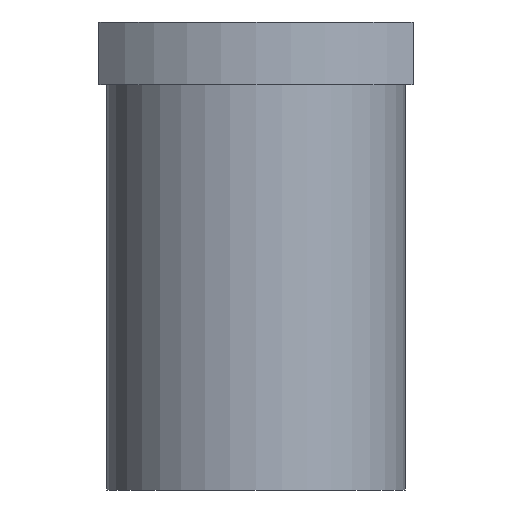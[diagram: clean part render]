
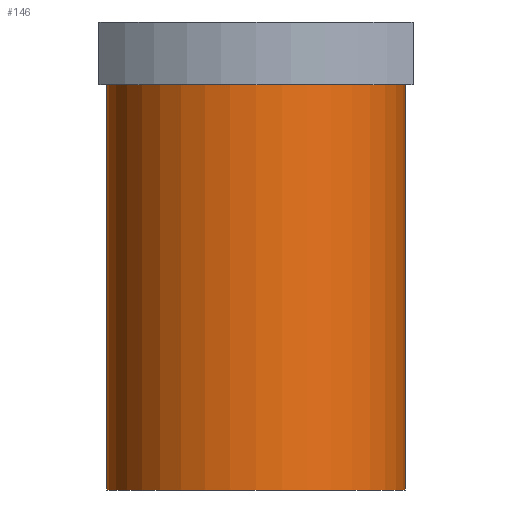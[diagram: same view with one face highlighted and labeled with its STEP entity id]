
A CAD part, front view. The second image highlights one B-rep face of the part: STEP entity #146.
In plain terms, the highlighted cylindrical face has radius 47.5 mm (diameter 95 mm), a partial arc.
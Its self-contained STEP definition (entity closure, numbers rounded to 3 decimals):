
#146=ADVANCED_FACE('',(#308),#309,.T.);
#308=FACE_OUTER_BOUND('',#463,.T.);
#309=CYLINDRICAL_SURFACE('',#464,47.5);
#463=EDGE_LOOP('',(#831,#832,#833,#834));
#464=AXIS2_PLACEMENT_3D('',#835,#836,#837);
#831=ORIENTED_EDGE('',*,*,#847,.T.);
#832=ORIENTED_EDGE('',*,*,#990,.F.);
#833=ORIENTED_EDGE('',*,*,#849,.T.);
#834=ORIENTED_EDGE('',*,*,#987,.T.);
#835=CARTESIAN_POINT('',(0.,0.0,-74.5));
#836=DIRECTION('',(0.,0.0,-1.0));
#837=DIRECTION('',(-1.0,0.0,0.));
#847=EDGE_CURVE('',#993,#994,#995,.T.);
#849=EDGE_CURVE('',#998,#996,#999,.T.);
#987=EDGE_CURVE('',#996,#993,#1199,.T.);
#990=EDGE_CURVE('',#998,#994,#1202,.T.);
#993=VERTEX_POINT('',#1205);
#994=VERTEX_POINT('',#1206);
#995=LINE('',#1207,#1208);
#996=VERTEX_POINT('',#1209);
#998=VERTEX_POINT('',#1211);
#999=LINE('',#1212,#1213);
#1199=CIRCLE('',#1585,47.5);
#1202=CIRCLE('',#1588,47.5);
#1205=CARTESIAN_POINT('',(-47.5,0.,-20.0));
#1206=CARTESIAN_POINT('',(-47.5,0.0,-149.0));
#1207=CARTESIAN_POINT('',(-47.5,0.,-74.5));
#1208=VECTOR('',#1590,1.0);
#1209=CARTESIAN_POINT('',(47.5,0.,-20.0));
#1211=CARTESIAN_POINT('',(47.5,0.,-149.0));
#1212=CARTESIAN_POINT('',(47.5,0.,-74.5));
#1213=VECTOR('',#1594,1.0);
#1585=AXIS2_PLACEMENT_3D('',#1800,#1801,#1802);
#1588=AXIS2_PLACEMENT_3D('',#1803,#1804,#1805);
#1590=DIRECTION('',(0.,0.0,-1.0));
#1594=DIRECTION('',(0.,-0.0,1.0));
#1800=CARTESIAN_POINT('',(0.,0.0,-20.0));
#1801=DIRECTION('',(0.,0.0,-1.0));
#1802=DIRECTION('',(-1.0,0.0,0.));
#1803=CARTESIAN_POINT('',(0.,0.0,-149.0));
#1804=DIRECTION('',(0.,0.0,-1.0));
#1805=DIRECTION('',(-1.0,0.0,0.));
